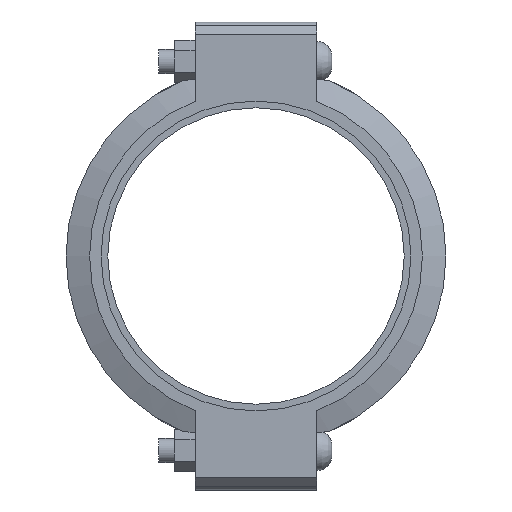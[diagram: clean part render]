
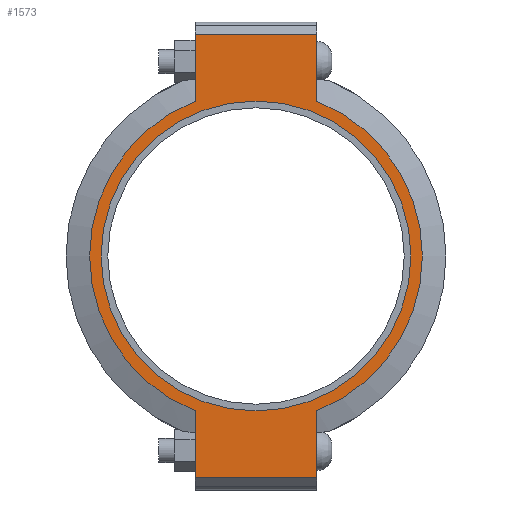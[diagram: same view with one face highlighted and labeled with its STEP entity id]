
A CAD part, left-side view. The second image highlights one B-rep face of the part: STEP entity #1573.
In plain terms, the highlighted planar face has unit normal (-1, 0, 0) as drawn and (0, 0, 1) by its records, which use the part's own axes.
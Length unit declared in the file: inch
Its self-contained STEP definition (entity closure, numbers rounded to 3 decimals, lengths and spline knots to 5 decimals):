
#144=LINE('',#2708,#233);
#155=LINE('',#2759,#244);
#161=LINE('',#2785,#250);
#163=LINE('',#2788,#252);
#164=LINE('',#2793,#253);
#165=LINE('',#2794,#254);
#233=VECTOR('',#2212,0.3937);
#244=VECTOR('',#2243,0.3937);
#250=VECTOR('',#2261,0.3937);
#252=VECTOR('',#2265,0.3937);
#253=VECTOR('',#2270,0.3937);
#254=VECTOR('',#2271,0.3937);
#316=FACE_BOUND('',#493,.T.);
#384=FACE_OUTER_BOUND('',#492,.T.);
#492=EDGE_LOOP('',(#1268,#1269,#1270,#1271,#1272,#1273,#1274,#1275));
#493=EDGE_LOOP('',(#1276));
#575=CIRCLE('',#1792,6.375);
#599=CIRCLE('',#1844,6.84375);
#600=CIRCLE('',#1845,6.84375);
#671=VERTEX_POINT('',#2534);
#712=VERTEX_POINT('',#2705);
#713=VERTEX_POINT('',#2707);
#730=VERTEX_POINT('',#2754);
#731=VERTEX_POINT('',#2758);
#738=VERTEX_POINT('',#2780);
#739=VERTEX_POINT('',#2784);
#740=VERTEX_POINT('',#2790);
#741=VERTEX_POINT('',#2792);
#835=EDGE_CURVE('',#671,#671,#575,.T.);
#892=EDGE_CURVE('',#713,#712,#144,.T.);
#913=EDGE_CURVE('',#731,#730,#155,.T.);
#924=EDGE_CURVE('',#739,#738,#161,.T.);
#926=EDGE_CURVE('',#739,#712,#163,.T.);
#927=EDGE_CURVE('',#738,#740,#599,.T.);
#928=EDGE_CURVE('',#740,#741,#164,.T.);
#929=EDGE_CURVE('',#731,#741,#165,.T.);
#930=EDGE_CURVE('',#730,#713,#600,.T.);
#1268=ORIENTED_EDGE('',*,*,#926,.F.);
#1269=ORIENTED_EDGE('',*,*,#924,.T.);
#1270=ORIENTED_EDGE('',*,*,#927,.T.);
#1271=ORIENTED_EDGE('',*,*,#928,.T.);
#1272=ORIENTED_EDGE('',*,*,#929,.F.);
#1273=ORIENTED_EDGE('',*,*,#913,.T.);
#1274=ORIENTED_EDGE('',*,*,#930,.T.);
#1275=ORIENTED_EDGE('',*,*,#892,.T.);
#1276=ORIENTED_EDGE('',*,*,#835,.T.);
#1413=PLANE('',#1843);
#1573=ADVANCED_FACE('',(#384,#316),#1413,.T.);
#1792=AXIS2_PLACEMENT_3D('',#2536,#2102,#2103);
#1843=AXIS2_PLACEMENT_3D('',#2789,#2266,#2267);
#1844=AXIS2_PLACEMENT_3D('',#2791,#2268,#2269);
#1845=AXIS2_PLACEMENT_3D('',#2795,#2272,#2273);
#2102=DIRECTION('center_axis',(0.,0.,-1.));
#2103=DIRECTION('ref_axis',(-1.,0.,0.));
#2212=DIRECTION('',(-1.,0.,0.));
#2243=DIRECTION('',(-1.,0.,0.));
#2261=DIRECTION('',(1.,0.,0.));
#2265=DIRECTION('',(0.,1.,0.));
#2266=DIRECTION('center_axis',(0.,0.,1.));
#2267=DIRECTION('ref_axis',(1.,0.,0.));
#2268=DIRECTION('center_axis',(0.,0.,1.));
#2269=DIRECTION('ref_axis',(-1.,0.,0.));
#2270=DIRECTION('',(1.,0.,0.));
#2271=DIRECTION('',(0.,-1.,0.));
#2272=DIRECTION('center_axis',(0.,0.,1.));
#2273=DIRECTION('ref_axis',(-1.,0.,0.));
#2534=CARTESIAN_POINT('',(6.375,0.,1.315));
#2536=CARTESIAN_POINT('Origin',(0.,0.,1.315));
#2705=CARTESIAN_POINT('',(-9.125,2.5,1.315));
#2707=CARTESIAN_POINT('',(-6.37079,2.5,1.315));
#2708=CARTESIAN_POINT('',(9.625,2.5,1.315));
#2754=CARTESIAN_POINT('',(6.37079,2.5,1.315));
#2758=CARTESIAN_POINT('',(9.125,2.5,1.315));
#2759=CARTESIAN_POINT('',(9.625,2.5,1.315));
#2780=CARTESIAN_POINT('',(-6.37079,-2.5,1.315));
#2784=CARTESIAN_POINT('',(-9.125,-2.5,1.315));
#2785=CARTESIAN_POINT('',(-9.625,-2.5,1.315));
#2788=CARTESIAN_POINT('',(-9.125,1.25,1.315));
#2789=CARTESIAN_POINT('Origin',(0.,0.,
1.315));
#2790=CARTESIAN_POINT('',(6.37079,-2.5,1.315));
#2791=CARTESIAN_POINT('Origin',(0.,0.,1.315));
#2792=CARTESIAN_POINT('',(9.125,-2.5,1.315));
#2793=CARTESIAN_POINT('',(-9.625,-2.5,1.315));
#2794=CARTESIAN_POINT('',(9.125,-1.25,1.315));
#2795=CARTESIAN_POINT('Origin',(0.,0.,1.315));
